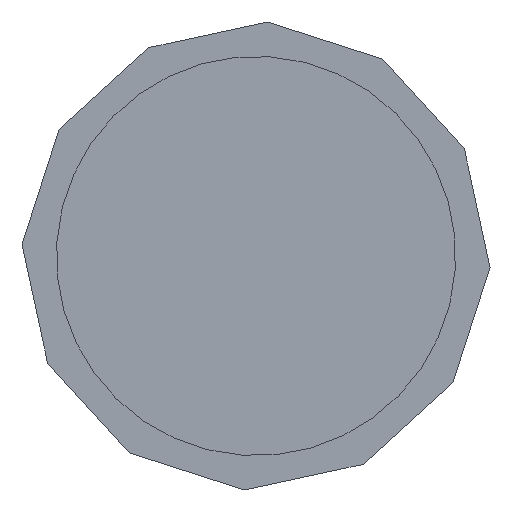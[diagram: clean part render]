
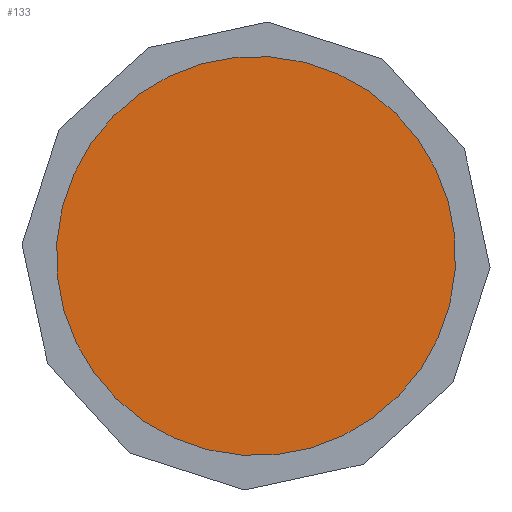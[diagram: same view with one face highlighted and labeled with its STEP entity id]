
A CAD part, left-side view. The second image highlights one B-rep face of the part: STEP entity #133.
In plain terms, the highlighted planar face has unit normal (-1, 0, 0).
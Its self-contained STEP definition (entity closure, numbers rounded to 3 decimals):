
#76=CARTESIAN_POINT('Vertex',(-100.,-97.383,-428.48)) ;
#81=CARTESIAN_POINT('Axis2P3D Location',(-100.,-247.383,-428.48)) ;
#85=CARTESIAN_POINT('Vertex',(-100.,-397.383,-428.48)) ;
#107=CARTESIAN_POINT('Axis2P3D Location',(-100.,-247.383,-428.48)) ;
#124=CARTESIAN_POINT('Axis2P3D Location',(-100.,0.,0.)) ;
#82=DIRECTION('Axis2P3D Direction',(1.,0.,0.)) ;
#108=DIRECTION('Axis2P3D Direction',(1.,0.,0.)) ;
#125=DIRECTION('Axis2P3D Direction',(1.,0.,0.)) ;
#126=DIRECTION('Axis2P3D XDirection',(0.,1.,0.)) ;
#83=AXIS2_PLACEMENT_3D('Circle Axis2P3D',#81,#82,$) ;
#109=AXIS2_PLACEMENT_3D('Circle Axis2P3D',#107,#108,$) ;
#127=AXIS2_PLACEMENT_3D('Plane Axis2P3D',#124,#125,#126) ;
#130=ORIENTED_EDGE('',*,*,#111,.F.) ;
#131=ORIENTED_EDGE('',*,*,#87,.F.) ;
#133=ADVANCED_FACE('',(#132),#128,.F.) ;
#84=CIRCLE('generated circle',#83,150.) ;
#110=CIRCLE('generated circle',#109,150.) ;
#87=EDGE_CURVE('',#77,#86,#84,.T.) ;
#111=EDGE_CURVE('',#86,#77,#110,.T.) ;
#129=EDGE_LOOP('',(#130,#131)) ;
#132=FACE_OUTER_BOUND('',#129,.T.) ;
#128=PLANE('Plane',#127) ;
#77=VERTEX_POINT('',#76) ;
#86=VERTEX_POINT('',#85) ;
